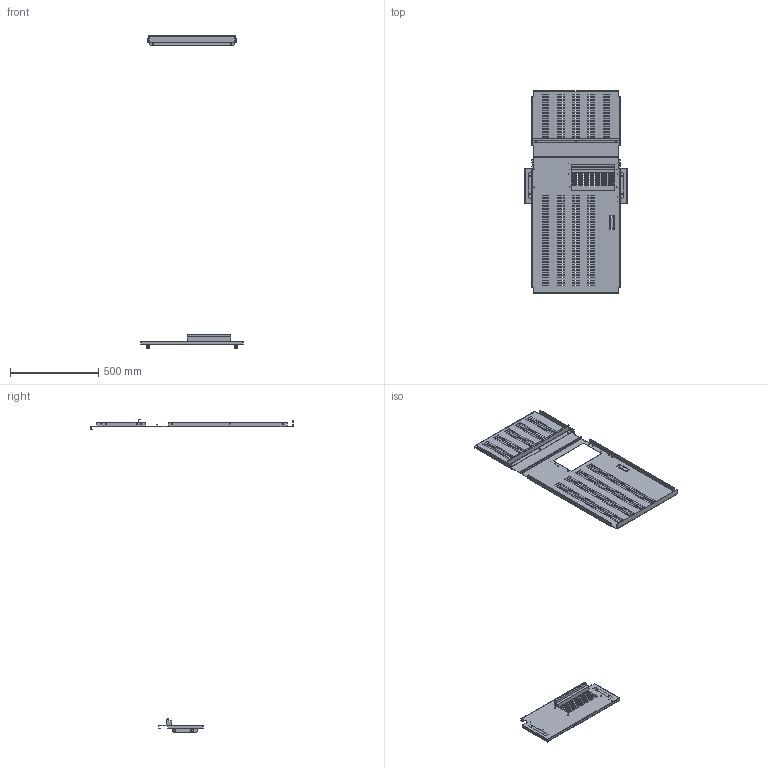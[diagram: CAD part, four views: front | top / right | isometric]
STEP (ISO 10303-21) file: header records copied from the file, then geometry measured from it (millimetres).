
FILE_DESCRIPTION(('CAx-IF Rec.Pracs.---Model Styling and Organization---1.2---2011-12-15','CAx-IF Rec.Pracs.---Geometric and Assembly Validation Properties---4.1---2014-06-16','CAx-IF Rec.Pracs.---PMI Polyline Presentation---2.0---2013-05-24'),'2;1');
FILE_NAME('R5M2UBFRNG12 (2200x600x(400+800)) (5).stp','2021-05-05T12:06:39+03:00',(''),(''),'STEP Interface 4.4 by CT CoreTechnologie','3D_Evolution4.4 by CT CoreTechnologie','');
FILE_SCHEMA(('AUTOMOTIVE_DESIGN { 1 0 10303 214 1 1 1 1 }'));
Length unit declared in the file: millimetre
Products named in the file (10): R5M2UBFR12 (2200õ600õ; M8x16-DIN 6921_thread; M8-DIN 6923 (CM100800)_thread; RB.0836.00.00.0; RB.0835.00.00.0_-00; RB.0839.00.00.0; RB.0837.00.00.0_-00; RB.0837.00.00.0_-01; RB.0792.00.00.0_-00; RB.0834.00.00.1_-01
Assembly tree (15 placements, depth 2):
  R5M2UBFR12 (2200õ600õ
    M8x16-DIN 6921_thread  x4
    M8-DIN 6923 (CM100800)_thread  x4
    RB.0836.00.00.0
    RB.0835.00.00.0_-00
    RB.0839.00.00.0
    RB.0837.00.00.0_-00
    RB.0837.00.00.0_-01
    RB.0792.00.00.0_-00
    RB.0834.00.00.1_-01
Bounding box: 580 x 1145.5 x 1774 mm (x, y, z)
Surface area: 1700180.7 mm2 (no closed solid volume)
Topology: 0 solids, 15 shells, 1826 faces, 5027 edges, 3229 vertices
Faces by surface type: plane 1348, bspline 264, cylinder 214
Entity records: 52640 total; most frequent: CARTESIAN_POINT 10390, ORIENTED_EDGE 8862, DIRECTION 7743, EDGE_CURVE 4433, VECTOR 3979, LINE 3979, VERTEX_POINT 2905, EDGE_LOOP 2204
